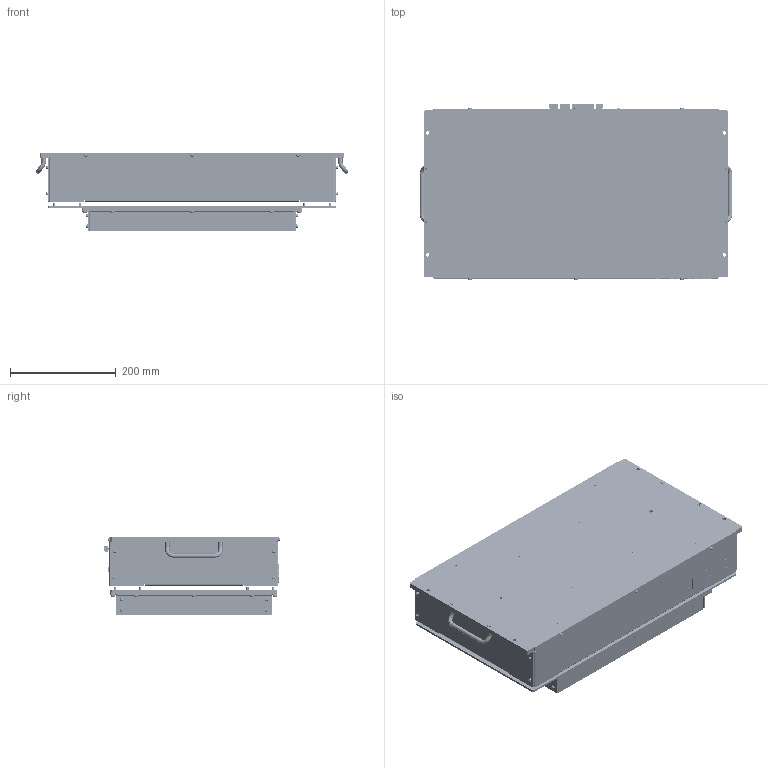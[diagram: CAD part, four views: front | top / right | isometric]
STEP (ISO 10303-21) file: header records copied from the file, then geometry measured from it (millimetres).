
FILE_DESCRIPTION (( 'STEP AP203' ), '1' );
FILE_NAME ('柔性振散盘,QFF-3929,400盘面.STEP', '2022-08-06T09:01:21', ( '' ), ( '' ), 'SwSTEP 2.0', 'SolidWorks 2017', '' );
FILE_SCHEMA (( 'CONFIG_CONTROL_DESIGN' ));
Products named in the file (1): 柔性振散盘,QFF-3929,400盘面
Bounding box: 589.3 x 333.28 x 149 mm (x, y, z)
Volume: 3176205.3 mm3; surface area: 1338505.9 mm2
Topology: 148 solids, 148 shells, 6408 faces, 15724 edges, 10232 vertices
Faces by surface type: plane 3466, cylinder 1368, bspline 1055, cone 369, torus 146, sphere 4
Entity records: 220626 total; most frequent: CARTESIAN_POINT 73331, ORIENTED_EDGE 31432, DIRECTION 27498, EDGE_CURVE 15716, VERTEX_POINT 10232, VECTOR 10026, LINE 10026, AXIS2_PLACEMENT_3D 8736
